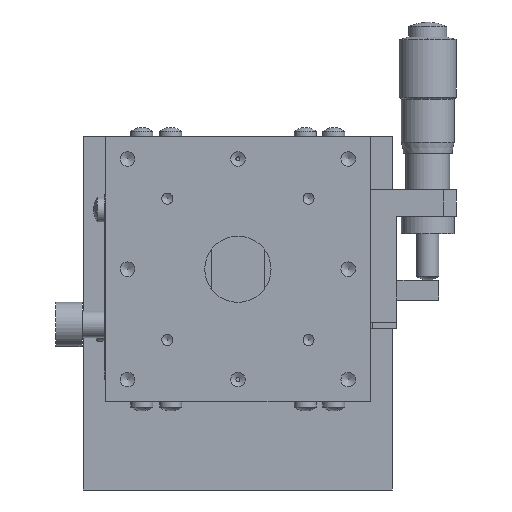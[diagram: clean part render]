
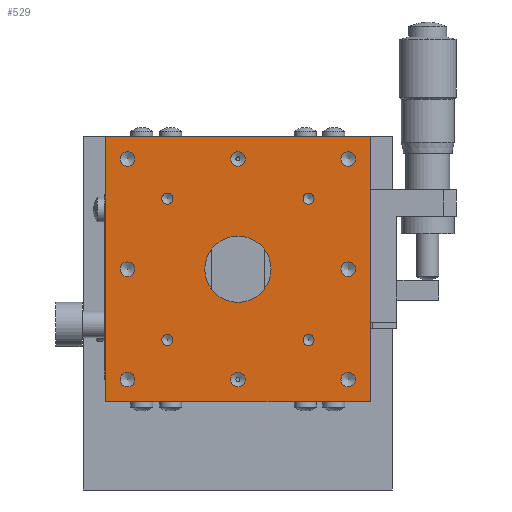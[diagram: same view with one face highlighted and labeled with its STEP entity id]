
A CAD part, front view. The second image highlights one B-rep face of the part: STEP entity #529.
In plain terms, the highlighted planar face has unit normal (0, -1, 0).
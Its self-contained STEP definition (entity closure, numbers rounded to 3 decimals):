
#529 = ADVANCED_FACE( '', ( #1142, #1143, #1144, #1145, #1146, #1147, #1148, #1149, #1150, #1151, #1152, #1153, #1154, #1155 ), #1156, .T. );
#1142 = FACE_BOUND( '', #1809, .T. );
#1143 = FACE_BOUND( '', #1810, .T. );
#1144 = FACE_BOUND( '', #1811, .T. );
#1145 = FACE_BOUND( '', #1812, .T. );
#1146 = FACE_BOUND( '', #1813, .T. );
#1147 = FACE_BOUND( '', #1814, .T. );
#1148 = FACE_BOUND( '', #1815, .T. );
#1149 = FACE_BOUND( '', #1816, .T. );
#1150 = FACE_BOUND( '', #1817, .T. );
#1151 = FACE_BOUND( '', #1818, .T. );
#1152 = FACE_BOUND( '', #1819, .T. );
#1153 = FACE_BOUND( '', #1820, .T. );
#1154 = FACE_OUTER_BOUND( '', #1821, .T. );
#1155 = FACE_BOUND( '', #1822, .T. );
#1156 = PLANE( '', #1823 );
#1809 = EDGE_LOOP( '', ( #3118 ) );
#1810 = EDGE_LOOP( '', ( #3119 ) );
#1811 = EDGE_LOOP( '', ( #3120 ) );
#1812 = EDGE_LOOP( '', ( #3121 ) );
#1813 = EDGE_LOOP( '', ( #3122 ) );
#1814 = EDGE_LOOP( '', ( #3123 ) );
#1815 = EDGE_LOOP( '', ( #3124 ) );
#1816 = EDGE_LOOP( '', ( #3125 ) );
#1817 = EDGE_LOOP( '', ( #3126 ) );
#1818 = EDGE_LOOP( '', ( #3127 ) );
#1819 = EDGE_LOOP( '', ( #3128 ) );
#1820 = EDGE_LOOP( '', ( #3129 ) );
#1821 = EDGE_LOOP( '', ( #3130, #3131, #3132, #3133 ) );
#1822 = EDGE_LOOP( '', ( #3134 ) );
#1823 = AXIS2_PLACEMENT_3D( '', #3135, #3136, #3137 );
#3118 = ORIENTED_EDGE( '', *, *, #3780, .T. );
#3119 = ORIENTED_EDGE( '', *, *, #3595, .T. );
#3120 = ORIENTED_EDGE( '', *, *, #3636, .T. );
#3121 = ORIENTED_EDGE( '', *, *, #3466, .T. );
#3122 = ORIENTED_EDGE( '', *, *, #3743, .T. );
#3123 = ORIENTED_EDGE( '', *, *, #3582, .T. );
#3124 = ORIENTED_EDGE( '', *, *, #3816, .T. );
#3125 = ORIENTED_EDGE( '', *, *, #3403, .T. );
#3126 = ORIENTED_EDGE( '', *, *, #3868, .T. );
#3127 = ORIENTED_EDGE( '', *, *, #3653, .T. );
#3128 = ORIENTED_EDGE( '', *, *, #3423, .T. );
#3129 = ORIENTED_EDGE( '', *, *, #3463, .T. );
#3130 = ORIENTED_EDGE( '', *, *, #3398, .F. );
#3131 = ORIENTED_EDGE( '', *, *, #3847, .T. );
#3132 = ORIENTED_EDGE( '', *, *, #3862, .F. );
#3133 = ORIENTED_EDGE( '', *, *, #3794, .T. );
#3134 = ORIENTED_EDGE( '', *, *, #3372, .T. );
#3135 = CARTESIAN_POINT( '', ( -35., -65., 50. ) );
#3136 = DIRECTION( '', ( 0., -1., 0. ) );
#3137 = DIRECTION( '', ( -1., 0., 0. ) );
#3372 = EDGE_CURVE( '', #3921, #3921, #3922, .T. );
#3398 = EDGE_CURVE( '', #3967, #3962, #3969, .T. );
#3403 = EDGE_CURVE( '', #3976, #3976, #3977, .T. );
#3423 = EDGE_CURVE( '', #4011, #4011, #4012, .T. );
#3463 = EDGE_CURVE( '', #4080, #4080, #4081, .T. );
#3466 = EDGE_CURVE( '', #4085, #4085, #4086, .T. );
#3582 = EDGE_CURVE( '', #4279, #4279, #4280, .T. );
#3595 = EDGE_CURVE( '', #4301, #4301, #4302, .T. );
#3636 = EDGE_CURVE( '', #4368, #4368, #4369, .T. );
#3653 = EDGE_CURVE( '', #4391, #4391, #4392, .T. );
#3743 = EDGE_CURVE( '', #4519, #4519, #4520, .T. );
#3780 = EDGE_CURVE( '', #4565, #4565, #4566, .T. );
#3794 = EDGE_CURVE( '', #4585, #3962, #4586, .T. );
#3816 = EDGE_CURVE( '', #4615, #4615, #4616, .T. );
#3847 = EDGE_CURVE( '', #3967, #4652, #4654, .T. );
#3862 = EDGE_CURVE( '', #4585, #4652, #4672, .T. );
#3868 = EDGE_CURVE( '', #4679, #4679, #4680, .T. );
#3921 = VERTEX_POINT( '', #4735 );
#3922 = CIRCLE( '', #4736, 7.5 );
#3962 = VERTEX_POINT( '', #4792 );
#3967 = VERTEX_POINT( '', #4799 );
#3969 = LINE( '', #4802, #4803 );
#3976 = VERTEX_POINT( '', #4813 );
#3977 = CIRCLE( '', #4814, 1.65 );
#4011 = VERTEX_POINT( '', #4995 );
#4012 = CIRCLE( '', #4996, 1.65 );
#4080 = VERTEX_POINT( '', #5081 );
#4081 = CIRCLE( '', #5082, 1.65 );
#4085 = VERTEX_POINT( '', #5086 );
#4086 = CIRCLE( '', #5087, 1.25 );
#4279 = VERTEX_POINT( '', #5390 );
#4280 = CIRCLE( '', #5391, 1.65 );
#4301 = VERTEX_POINT( '', #5416 );
#4302 = CIRCLE( '', #5417, 1.25 );
#4368 = VERTEX_POINT( '', #5579 );
#4369 = CIRCLE( '', #5580, 1.25 );
#4391 = VERTEX_POINT( '', #5609 );
#4392 = CIRCLE( '', #5610, 1.65 );
#4519 = VERTEX_POINT( '', #5784 );
#4520 = CIRCLE( '', #5785, 1.65 );
#4565 = VERTEX_POINT( '', #5849 );
#4566 = CIRCLE( '', #5850, 1.25 );
#4585 = VERTEX_POINT( '', #5874 );
#4586 = LINE( '', #5875, #5876 );
#4615 = VERTEX_POINT( '', #5914 );
#4616 = CIRCLE( '', #5915, 1.65 );
#4652 = VERTEX_POINT( '', #5960 );
#4654 = LINE( '', #5963, #5964 );
#4672 = LINE( '', #5988, #5989 );
#4679 = VERTEX_POINT( '', #5996 );
#4680 = CIRCLE( '', #5997, 1.65 );
#4735 = CARTESIAN_POINT( '', ( -27.5, -65., 50. ) );
#4736 = AXIS2_PLACEMENT_3D( '', #6062, #6063, #6064 );
#4792 = CARTESIAN_POINT( '', ( -5., -65., 20. ) );
#4799 = CARTESIAN_POINT( '', ( -5., -65., 80. ) );
#4802 = CARTESIAN_POINT( '', ( -5., -65., 50. ) );
#4803 = VECTOR( '', #6090, 1000. );
#4813 = CARTESIAN_POINT( '', ( -10., -65., 73.35 ) );
#4814 = AXIS2_PLACEMENT_3D( '', #6094, #6095, #6096 );
#4995 = CARTESIAN_POINT( '', ( -35., -65., 23.35 ) );
#4996 = AXIS2_PLACEMENT_3D( '', #6121, #6122, #6123 );
#5081 = CARTESIAN_POINT( '', ( -60., -65., 23.35 ) );
#5082 = AXIS2_PLACEMENT_3D( '', #6177, #6178, #6179 );
#5086 = CARTESIAN_POINT( '', ( -51., -65., 32.75 ) );
#5087 = AXIS2_PLACEMENT_3D( '', #6183, #6184, #6185 );
#5390 = CARTESIAN_POINT( '', ( -60., -65., 73.35 ) );
#5391 = AXIS2_PLACEMENT_3D( '', #6326, #6327, #6328 );
#5416 = CARTESIAN_POINT( '', ( -19., -65., 64.75 ) );
#5417 = AXIS2_PLACEMENT_3D( '', #6345, #6346, #6347 );
#5579 = CARTESIAN_POINT( '', ( -19., -65., 32.75 ) );
#5580 = AXIS2_PLACEMENT_3D( '', #6403, #6404, #6405 );
#5609 = CARTESIAN_POINT( '', ( -10., -65., 23.35 ) );
#5610 = AXIS2_PLACEMENT_3D( '', #6422, #6423, #6424 );
#5784 = CARTESIAN_POINT( '', ( -60., -65., 48.35 ) );
#5785 = AXIS2_PLACEMENT_3D( '', #6514, #6515, #6516 );
#5849 = CARTESIAN_POINT( '', ( -51., -65., 64.75 ) );
#5850 = AXIS2_PLACEMENT_3D( '', #6548, #6549, #6550 );
#5874 = CARTESIAN_POINT( '', ( -65., -65., 20. ) );
#5875 = CARTESIAN_POINT( '', ( -35., -65., 20. ) );
#5876 = VECTOR( '', #6562, 1000. );
#5914 = CARTESIAN_POINT( '', ( -35., -65., 73.35 ) );
#5915 = AXIS2_PLACEMENT_3D( '', #6584, #6585, #6586 );
#5960 = CARTESIAN_POINT( '', ( -65., -65., 80. ) );
#5963 = CARTESIAN_POINT( '', ( -35., -65., 80. ) );
#5964 = VECTOR( '', #6612, 1000. );
#5988 = CARTESIAN_POINT( '', ( -65., -65., 50. ) );
#5989 = VECTOR( '', #6622, 1000. );
#5996 = CARTESIAN_POINT( '', ( -10., -65., 48.35 ) );
#5997 = AXIS2_PLACEMENT_3D( '', #6629, #6630, #6631 );
#6062 = CARTESIAN_POINT( '', ( -35., -65., 50. ) );
#6063 = DIRECTION( '', ( 0., 1., 0. ) );
#6064 = DIRECTION( '', ( 1., 0., 0. ) );
#6090 = DIRECTION( '', ( 0., 0., -1. ) );
#6094 = CARTESIAN_POINT( '', ( -10., -65., 75. ) );
#6095 = DIRECTION( '', ( 0., 1., 0. ) );
#6096 = DIRECTION( '', ( 0., 0., -1. ) );
#6121 = CARTESIAN_POINT( '', ( -35., -65., 25. ) );
#6122 = DIRECTION( '', ( 0., 1., 0. ) );
#6123 = DIRECTION( '', ( 0., 0., -1. ) );
#6177 = CARTESIAN_POINT( '', ( -60., -65., 25. ) );
#6178 = DIRECTION( '', ( 0., 1., 0. ) );
#6179 = DIRECTION( '', ( 0., 0., -1. ) );
#6183 = CARTESIAN_POINT( '', ( -51., -65., 34. ) );
#6184 = DIRECTION( '', ( 0., 1., 0. ) );
#6185 = DIRECTION( '', ( 0., 0., -1. ) );
#6326 = CARTESIAN_POINT( '', ( -60., -65., 75. ) );
#6327 = DIRECTION( '', ( 0., 1., 0. ) );
#6328 = DIRECTION( '', ( 0., 0., -1. ) );
#6345 = CARTESIAN_POINT( '', ( -19., -65., 66. ) );
#6346 = DIRECTION( '', ( 0., 1., 0. ) );
#6347 = DIRECTION( '', ( 0., 0., -1. ) );
#6403 = CARTESIAN_POINT( '', ( -19., -65., 34. ) );
#6404 = DIRECTION( '', ( 0., 1., 0. ) );
#6405 = DIRECTION( '', ( 0., 0., -1. ) );
#6422 = CARTESIAN_POINT( '', ( -10., -65., 25. ) );
#6423 = DIRECTION( '', ( 0., 1., 0. ) );
#6424 = DIRECTION( '', ( 0., 0., -1. ) );
#6514 = CARTESIAN_POINT( '', ( -60., -65., 50. ) );
#6515 = DIRECTION( '', ( 0., 1., 0. ) );
#6516 = DIRECTION( '', ( 0., 0., -1. ) );
#6548 = CARTESIAN_POINT( '', ( -51., -65., 66. ) );
#6549 = DIRECTION( '', ( 0., 1., 0. ) );
#6550 = DIRECTION( '', ( 0., 0., -1. ) );
#6562 = DIRECTION( '', ( 1., 0., 0. ) );
#6584 = CARTESIAN_POINT( '', ( -35., -65., 75. ) );
#6585 = DIRECTION( '', ( 0., 1., 0. ) );
#6586 = DIRECTION( '', ( 0., 0., -1. ) );
#6612 = DIRECTION( '', ( -1., 0., 0. ) );
#6622 = DIRECTION( '', ( 0., 0., 1. ) );
#6629 = CARTESIAN_POINT( '', ( -10., -65., 50. ) );
#6630 = DIRECTION( '', ( 0., 1., 0. ) );
#6631 = DIRECTION( '', ( 0., 0., -1. ) );
